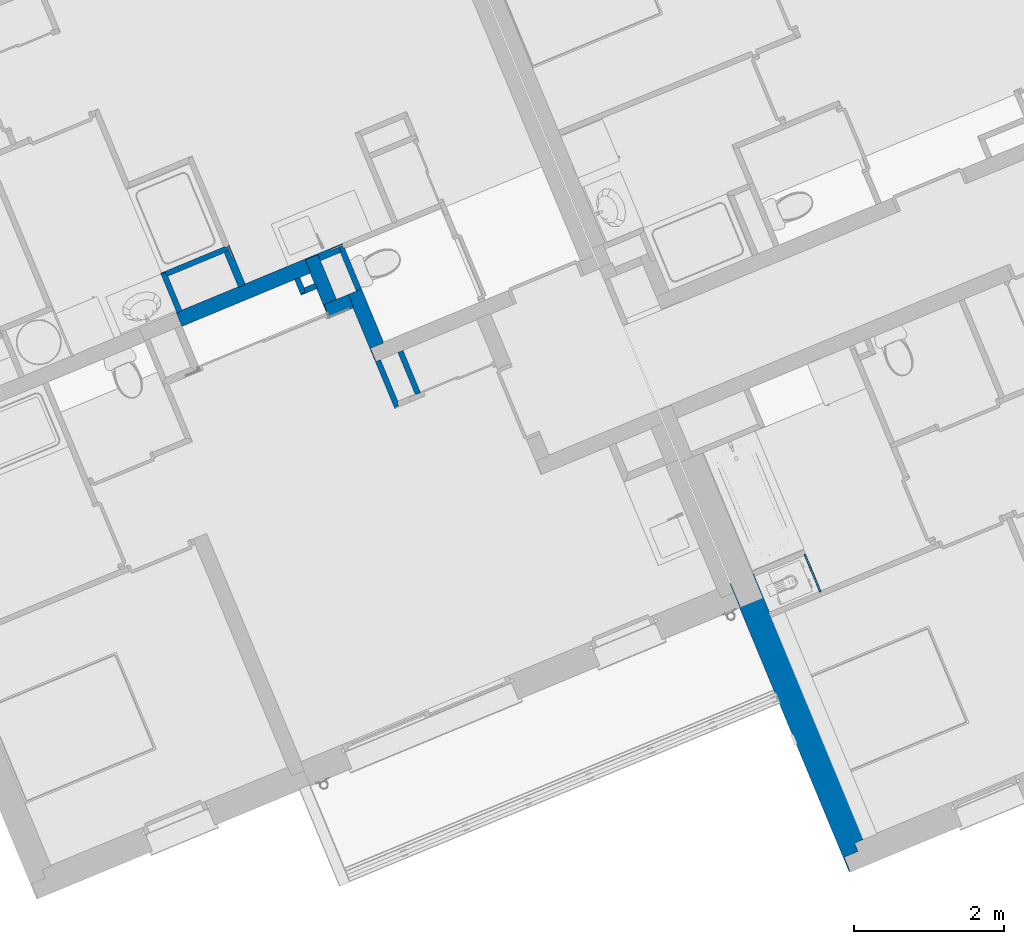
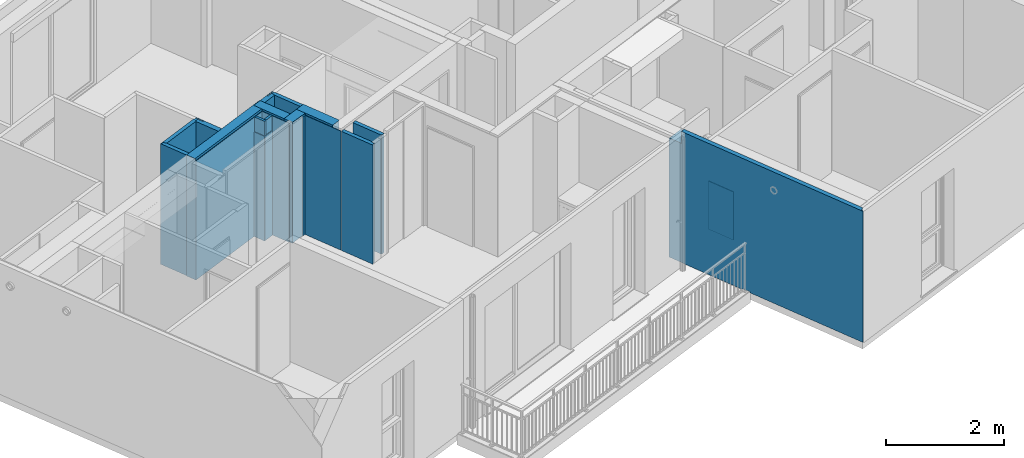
# One storey, part 40 of 90: 15 walls.
"""IFC2X3 building model written with IfcOpenShell, lengths in metres."""

from ifc_helpers import new_model, entity, si_unit, converted_unit, derived_unit, money_unit, direction, frame, origin_with_axes, place, context, subcontext, project, spatial, faceted_brep, material, material_list, type_object, element, save


model = new_model("IFC2X3")

# Units and contexts
model_context = context("Model", 3, precision=1e-05, world=origin_with_axes(), true_north=direction((0.0, 1.0)))
body_context = subcontext(model_context, "Body", "Model", "MODEL_VIEW")
ifc_project = project(units=[si_unit("LENGTHUNIT", "METRE"), si_unit("AREAUNIT", "SQUARE_METRE"), si_unit("VOLUMEUNIT", "CUBIC_METRE"), converted_unit("PLANEANGLEUNIT", "DEGREE", entity("IfcPlaneAngleMeasure", 0.0174532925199), si_unit("PLANEANGLEUNIT", "RADIAN"), dimensions=[0, 0, 0, 0, 0, 0, 0]), si_unit("SOLIDANGLEUNIT", "STERADIAN"), money_unit("EUR"), converted_unit("TIMEUNIT", "Year", entity("IfcTimeMeasure", 31556926.0), si_unit("TIMEUNIT", "SECOND"), dimensions=[0, 0, 1, 0, 0, 0, 0]), si_unit("MASSUNIT", "GRAM", prefix="KILO"), si_unit("THERMODYNAMICTEMPERATUREUNIT", "DEGREE_CELSIUS"), si_unit("LUMINOUSINTENSITYUNIT", "LUMEN"), si_unit("ENERGYUNIT", "JOULE", prefix="MEGA"), derived_unit("THERMALCONDUCTANCEUNIT", [(si_unit("POWERUNIT", "WATT"), 1), (si_unit("LENGTHUNIT", "METRE"), -1), (si_unit("THERMODYNAMICTEMPERATUREUNIT", "KELVIN"), -1)]), derived_unit("SPECIFICHEATCAPACITYUNIT", [(si_unit("ENERGYUNIT", "JOULE"), 1), (si_unit("MASSUNIT", "GRAM", prefix="KILO"), -1), (si_unit("THERMODYNAMICTEMPERATUREUNIT", "KELVIN"), -1)]), derived_unit("MASSDENSITYUNIT", [(si_unit("MASSUNIT", "GRAM", prefix="KILO"), 1), (si_unit("VOLUMEUNIT", "CUBIC_METRE"), -1)])], contexts=[model_context])

# Site, building, storey
site_placement = place(None, origin_with_axes())
site = spatial("IfcSite", under=ifc_project, at=site_placement, Name="Site", CompositionType="ELEMENT")
building_placement = place(site_placement, origin_with_axes())
building = spatial("IfcBuilding", under=site, at=building_placement, Name="Bâtiment", CompositionType="ELEMENT")
storey_placement = place(building_placement, frame((0.0, 0.0, 2.72), z_axis=(0.0, 0.0, 1.0), x_axis=(1.0, 0.0, 0.0)))
storey = spatial("IfcBuildingStorey", under=building, at=storey_placement, Name="R+1", CompositionType="ELEMENT", Elevation=2.72)

# Walls
ifc_material_1 = material(Name="Finition int - Plaque de plâtre")
ifc_material_2 = material(Name="Isolation - Laine de roche")
ifc_material_list_1 = material_list([ifc_material_1, ifc_material_2, ifc_material_1])
wall_type_1 = type_object("IfcWallType", Name="3 - Cloison 72mm Placostil 74", PredefinedType="USERDEFINED")
wall_1_placement = place(storey_placement, frame((-26.1715406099, -21.3055376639, 0.0), z_axis=(0.0, 0.0, 1.0), x_axis=(0.383112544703, -0.923701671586, 0.0)))
element("IfcWall", 1, at=wall_1_placement, inside=storey, type_object=wall_type_1, material=ifc_material_list_1, Name="Cloison Placostil 72/48", ObjectType="PARTITIONING", context=body_context, shape_type="Brep", body=[
    faceted_brep([(0.0, 0.074, 2.47), (0.612999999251, 0.074, 2.47), (0.612999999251, 0.074, 0.0), (0.0, 0.074, 0.0), (0.612999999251, 0.061, 2.47), (0.0, 0.061, 2.47), (0.612999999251, 0.061, 0.0), (0.0, 0.061, 0.0)], [[[0, 1, 2, 3]], [[4, 1, 0, 5]], [[1, 4, 6, 2]], [[3, 2, 6, 7]], [[5, 0, 3, 7]], [[4, 5, 7, 6]]]),
    faceted_brep([(0.0, 0.061, 2.47), (0.61299999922, 0.061, 2.47), (0.61299999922, 0.061, 0.0), (0.0, 0.061, 0.0), (0.612999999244, 0.013, 2.47), (0.0, 0.013, 2.47), (0.612999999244, 0.013, 0.0), (0.0, 0.013, 0.0)], [[[0, 1, 2, 3]], [[4, 1, 0, 5]], [[1, 4, 6, 2]], [[3, 2, 6, 7]], [[5, 0, 3, 7]], [[4, 5, 7, 6]]]),
    faceted_brep([(0.0, 0.013, 2.47), (0.599999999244, 0.013, 2.47), (0.599999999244, 0.013, 0.0), (0.0, 0.013, 0.0), (0.59999999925, 0.0, 2.47), (0.0, 0.0, 2.47), (0.59999999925, 0.0, 0.0), (0.0, 0.0, 0.0)], [[[0, 1, 2, 3]], [[4, 1, 0, 5]], [[1, 4, 6, 2]], [[3, 2, 6, 7]], [[5, 0, 3, 7]], [[4, 5, 7, 6]]]),
])
wall_2_placement = place(storey_placement, frame((-26.4708199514, -21.429666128, 0.0), z_axis=(0.0, 0.0, 1.0), x_axis=(0.383112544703, -0.923701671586, 0.0)))
element("IfcWall", 2, at=wall_2_placement, inside=storey, type_object=wall_type_1, material=ifc_material_list_1, Name="Cloison Placostil 72/48", ObjectType="PARTITIONING", context=body_context, shape_type="Brep", body=[
    faceted_brep([(0.0, 0.074, 2.47), (0.612999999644, 0.074, 2.47), (0.612999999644, 0.074, 0.0), (0.0, 0.074, 0.0), (0.61299999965, 0.061, 2.47), (0.0, 0.061, 2.47), (0.61299999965, 0.061, 0.0), (0.0, 0.061, 0.0)], [[[0, 1, 2, 3]], [[4, 1, 0, 5]], [[1, 4, 6, 2]], [[2, 6, 7, 3]], [[5, 0, 3, 7]], [[4, 5, 7, 6]]]),
    faceted_brep([(0.0, 0.061, 2.47), (0.66099999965, 0.061, 2.47), (0.66099999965, 0.061, 0.0), (0.0, 0.061, 0.0), (0.660999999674, 0.013, 2.47), (0.0, 0.013, 2.47), (0.660999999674, 0.013, 0.0), (0.0, 0.013, 0.0)], [[[0, 1, 2, 3]], [[4, 1, 0, 5]], [[1, 4, 6, 2]], [[2, 6, 7, 3]], [[5, 0, 3, 7]], [[4, 5, 7, 6]]]),
    faceted_brep([(0.0, 0.013, 2.47), (0.673999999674, 0.013, 2.47), (0.673999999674, 0.013, 0.0), (0.0, 0.013, 0.0), (0.67399999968, 0.0, 2.47), (0.0, 0.0, 2.47), (0.67399999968, 0.0, 0.0), (0.0, 0.0, 0.0)], [[[0, 1, 2, 3]], [[4, 1, 0, 5]], [[1, 4, 6, 2]], [[2, 6, 7, 3]], [[5, 0, 3, 7]], [[4, 5, 7, 6]]]),
])
ifc_material_3 = material(Name="Finition int - Enduit plâtre")
ifc_material_4 = material(Name="Béton")
ifc_material_list_2 = material_list([ifc_material_3, ifc_material_4, ifc_material_3])
wall_type_2 = type_object("IfcWallType", Name="2 - Murs Béton 18 + Enduit 2 Faces 200", PredefinedType="USERDEFINED")
wall_3_placement = place(storey_placement, frame((-29.1251537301, -20.7724285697, 0.0), z_axis=(0.0, 0.0, 1.0), x_axis=(0.92370167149, 0.383112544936, 0.0)))
element("IfcWall", 3, at=wall_3_placement, inside=storey, type_object=wall_type_2, material=ifc_material_list_2, Name="M_Ext-008", ObjectType="SOLIDWALL", context=body_context, shape_type="Brep", body=[
    faceted_brep([(1.85001659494, 0.0, 2.51), (1.85001659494, -0.01, 2.51), (2.04001659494, -0.01, 2.51), (2.04001659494, 0.0, 2.51), (0.0, -0.01, 2.51), (0.0, 0.0, 2.51), (0.0, -0.01, 0.0), (0.00800000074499, -0.01, 0.0), (0.00800000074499, -0.01, 2.5), (0.082000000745, -0.01, 2.5), (0.082000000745, -0.01, 0.0), (0.895000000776, -0.01, 0.0), (0.895000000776, -0.01, 2.5), (0.995000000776, -0.01, 2.5), (0.995000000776, -0.01, 0.0), (2.04001659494, -0.01, 0.0), (2.04001659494, 0.0, 0.0), (0.99500000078, 0.0, 0.0), (0.99500000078, 0.0, 2.5), (0.89500000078, 0.0, 2.5), (0.89500000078, 0.0, 0.0), (0.0820000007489, 0.0, 0.0), (0.0820000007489, 0.0, 2.5), (0.00800000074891, 0.0, 2.5), (0.00800000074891, 0.0, 0.0), (0.0, 0.0, 0.0)], [[[0, 1, 2, 3]], [[4, 1, 0, 5]], [[1, 4, 6, 7, 8, 9, 10, 11, 12, 13, 14, 15, 2]], [[15, 16, 3, 2]], [[5, 0, 3, 16, 17, 18, 19, 20, 21, 22, 23, 24, 25]], [[4, 5, 25, 6]], [[25, 24, 7, 6]], [[23, 8, 7, 24]], [[9, 8, 23, 22]], [[21, 10, 9, 22]], [[21, 20, 11, 10]], [[19, 12, 11, 20]], [[18, 13, 12, 19]], [[17, 14, 13, 18]], [[15, 14, 17, 16]]]),
    faceted_brep([(1.85001659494, -0.189996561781, 2.51), (1.86001658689, -0.189999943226, 2.50999999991), (1.86001659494, -0.01, 2.50999999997), (1.85001659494, -0.01, 2.51), (1.85001659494, -0.189918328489, 2.51), (1.85001659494, -0.189996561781, 2.52), (0.0, -0.18937098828, 2.52), (0.0, -0.18937098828, 2.47), (1.86001658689, -0.189999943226, 2.47), (1.86001659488, -0.19, 0.0), (1.86001659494, -0.01, 0.0), (0.0, -0.01, 0.0), (0.0, -0.01, 2.51), (0.0, -0.174814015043, 2.51), (1.85001659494, -0.189918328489, 2.52), (0.0, -0.174814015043, 2.52), (0.0, -0.19, 0.0), (0.0, -0.19, 2.47)], [[[0, 1, 2, 3, 4]], [[1, 0, 5, 6, 7, 8]], [[1, 8, 9, 10, 2]], [[11, 12, 3, 2, 10]], [[13, 4, 3, 12]], [[5, 0, 4, 14]], [[6, 5, 14, 15]], [[7, 6, 15, 13, 12, 11, 16, 17]], [[17, 8, 7]], [[8, 17, 16, 9]], [[10, 9, 16, 11]], [[13, 15, 14, 4]]]),
    faceted_brep([(1.85001659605, -0.189996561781, 2.47), (1.85001659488, -0.2, 2.47), (1.85001659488, -0.2, 0.0), (1.85001659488, -0.19, 0.0), (0.0, -0.2, 2.47), (0.0, -0.19, 2.47), (0.0, -0.2, 0.0), (0.0, -0.19, 0.0)], [[[0, 1, 2, 3]], [[4, 1, 0, 5]], [[1, 4, 6, 2]], [[7, 3, 2, 6]], [[5, 0, 3, 7]], [[4, 5, 7, 6]]]),
])
wall_4_placement = place(storey_placement, frame((-26.46541406, -21.4165979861, 0.0), z_axis=(0.0, 0.0, 1.0), x_axis=(-0.383112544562, 0.923701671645, 0.0)))
element("IfcWall", 4, at=wall_4_placement, inside=storey, type_object=wall_type_2, material=ifc_material_list_2, Name="M_Ext-008", ObjectType="SOLIDWALL", context=body_context, shape_type="Brep", body=[
    faceted_brep([(0.766636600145, 2.84764283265e-08, 2.51), (0.766636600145, 2.84764283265e-08, 2.47), (8.86723423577e-08, -1.06286606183e-08, 2.47), (0.0, 0.0, 0.0), (0.776636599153, 0.0, 0.0), (0.776636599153, 0.0, 2.51), (0.76692231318, 0.00999999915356, 2.51), (0.766922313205, 0.01, 2.47), (0.0, 0.01, 2.47), (0.0, 0.01, 0.0), (0.77663659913, 0.01, 0.0), (0.77663659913, 0.01, 2.51)], [[[0, 1, 2, 3, 4, 5]], [[1, 0, 6, 7]], [[8, 2, 1, 7]], [[2, 8, 9, 3]], [[10, 4, 3, 9]], [[11, 5, 4, 10]], [[6, 0, 5, 11]], [[7, 6, 11, 10, 9, 8]]]),
    faceted_brep([(0.956636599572, -0.18, 2.51), (0.761493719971, -0.18, 2.51), (0.180000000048, -0.18, 2.51), (0.180000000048, -0.18, 0.0), (0.956636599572, -0.18, 0.0), (0.766636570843, 4.06298710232e-08, 2.51), (0.956636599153, 0.0, 2.51), (0.18, 1.07063300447e-08, 2.51), (0.18, 0.0, 0.0), (0.956636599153, 0.0, 0.0)], [[[0, 1, 2, 3, 4]], [[5, 1, 0, 6]], [[1, 5, 7, 2]], [[2, 7, 8, 3]], [[9, 4, 3, 8]], [[6, 0, 4, 9]], [[5, 6, 9, 8, 7]]]),
    faceted_brep([(0.956636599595, -0.19, 2.51), (0.761208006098, -0.19, 2.51), (0.190000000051, -0.19, 2.51), (0.190000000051, -0.19, 0.0), (0.956636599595, -0.19, 0.0), (0.761493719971, -0.18, 2.51), (0.956636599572, -0.18, 2.51), (0.190000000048, -0.18, 2.51), (0.190000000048, -0.18, 0.0), (0.956636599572, -0.18, 0.0)], [[[0, 1, 2, 3, 4]], [[5, 1, 0, 6]], [[1, 5, 7, 2]], [[2, 7, 8, 3]], [[9, 4, 3, 8]], [[6, 0, 4, 9]], [[5, 6, 9, 8, 7]]]),
])
wall_type_3 = type_object("IfcWallType", Name="3 - Cloison Gaine Technique 72mm 74", PredefinedType="USERDEFINED")
wall_5_placement = place(storey_placement, frame((-29.3334564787, -20.2493196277, 0.0), z_axis=(0.0, 0.0, 1.0), x_axis=(0.923701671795, 0.383112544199, 0.0)))
element("IfcWall", 5, at=wall_5_placement, inside=storey, type_object=wall_type_3, material=ifc_material_list_1, Name="Cloison Placostil 72/48", ObjectType="PARTITIONING", context=body_context, shape_type="Brep", body=[
    faceted_brep([(0.0130000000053, -0.013, 0.0), (0.926000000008, -0.013, 0.0), (0.926000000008, -0.013, 2.5), (0.0130000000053, -0.013, 2.5), (0.013, 0.0, 0.0), (0.926000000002, 0.0, 0.0), (0.926000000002, 0.0, 2.5), (0.013, 0.0, 2.5)], [[[0, 1, 2, 3]], [[4, 5, 1, 0]], [[5, 6, 2, 1]], [[3, 2, 6, 7]], [[4, 0, 3, 7]], [[7, 6, 5, 4]]]),
    faceted_brep([(0.0610000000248, -0.061, 2.5), (0.96100000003, -0.061, 2.5), (0.961000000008, -0.013, 2.5), (0.0610000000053, -0.013, 2.5), (0.0610000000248, -0.061, 0.0), (0.96100000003, -0.061, 0.0), (0.961000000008, -0.013, 0.0), (0.0610000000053, -0.013, 0.0)], [[[0, 1, 2, 3]], [[4, 5, 1, 0]], [[6, 2, 1, 5]], [[3, 2, 6, 7]], [[7, 4, 0, 3]], [[7, 6, 5, 4]]]),
    faceted_brep([(0.0740000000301, -0.074, 2.5), (0.900000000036, -0.074, 2.5), (0.90000000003, -0.061, 2.5), (0.0740000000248, -0.061, 2.5), (0.0740000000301, -0.074, 0.0), (0.900000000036, -0.074, 0.0), (0.90000000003, -0.061, 0.0), (0.0740000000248, -0.061, 0.0)], [[[0, 1, 2, 3]], [[4, 5, 1, 0]], [[6, 2, 1, 5]], [[3, 2, 6, 7]], [[7, 4, 0, 3]], [[7, 6, 5, 4]]]),
])
wall_6_placement = place(storey_placement, frame((-26.6564102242, -20.4601597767, 0.0), z_axis=(0.0, 0.0, 1.0), x_axis=(-0.383112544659, 0.923701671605, 0.0)))
element("IfcWall", 6, at=wall_6_placement, inside=storey, type_object=wall_type_3, material=ifc_material_list_1, Name="Cloison Placostil 72/48", ObjectType="PARTITIONING", context=body_context, shape_type="Brep", body=[
    faceted_brep([(0.570363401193, 0.074, 0.0), (0.570363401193, 0.061, 0.0), (0.0, 0.061, 0.0), (0.0, 0.074, 0.0), (0.570363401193, 0.074, 2.5), (0.570363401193, 0.061, 2.5), (0.0, 0.061, 2.5), (0.0, 0.074, 2.5)], [[[0, 1, 2, 3]], [[1, 0, 4, 5]], [[1, 5, 6, 2]], [[7, 3, 2, 6]], [[4, 0, 3, 7]], [[5, 4, 7, 6]]]),
    faceted_brep([(0.0, 0.061, 0.0), (0.631363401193, 0.061, 0.0), (0.631363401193, 0.013, 0.0), (0.0, 0.013, 0.0), (0.0, 0.061, 2.5), (0.631363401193, 0.061, 2.5), (0.631363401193, 0.013, 2.5), (0.0, 0.013, 2.5)], [[[0, 1, 2, 3]], [[4, 5, 1, 0]], [[6, 2, 1, 5]], [[3, 2, 6, 7]], [[7, 4, 0, 3]], [[7, 6, 5, 4]]]),
    faceted_brep([(0.0, 0.0, 0.0), (0.596363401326, 0.0, 0.0), (0.596363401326, 0.0, 2.5), (0.0, 0.0, 2.5), (0.0, 0.013, 0.0), (0.596363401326, 0.013, 0.0), (0.596363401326, 0.013, 2.5), (0.0, 0.013, 2.5)], [[[0, 1, 2, 3]], [[4, 5, 1, 0]], [[5, 6, 2, 1]], [[3, 2, 6, 7]], [[3, 7, 4, 0]], [[7, 6, 5, 4]]]),
])
wall_7_placement = place(storey_placement, frame((-29.117764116, -20.769363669, 0.0), z_axis=(0.0, 0.0, 1.0), x_axis=(-0.383112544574, 0.92370167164, 0.0)))
element("IfcWall", 7, at=wall_7_placement, inside=storey, type_object=wall_type_3, material=ifc_material_list_1, Name="Cloison Placostil 72/48", ObjectType="PARTITIONING", context=body_context, shape_type="Brep", body=[
    faceted_brep([(0.563000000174, -0.013, 2.5), (0.563000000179, 0.0, 2.5), (-0.01, 0.0, 2.5), (-0.00999999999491, -0.013, 2.5), (0.563000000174, -0.013, 0.0), (0.563000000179, 0.0, 0.0), (-0.01, 0.0, 0.0), (-0.00999999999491, -0.013, 0.0)], [[[0, 1, 2, 3]], [[1, 0, 4, 5]], [[1, 5, 6, 2]], [[7, 3, 2, 6]], [[4, 0, 3, 7]], [[5, 4, 7, 6]]]),
    faceted_brep([(0.550000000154, -0.061, 2.5), (0.550000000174, -0.013, 2.5), (-0.00999999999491, -0.013, 2.5), (-0.0099999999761, -0.061, 2.5), (0.550000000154, -0.061, 0.0), (0.550000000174, -0.013, 0.0), (-0.00999999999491, -0.013, 0.0), (-0.0099999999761, -0.061, 0.0)], [[[0, 1, 2, 3]], [[1, 0, 4, 5]], [[1, 5, 6, 2]], [[7, 3, 2, 6]], [[4, 0, 3, 7]], [[5, 4, 7, 6]]]),
    faceted_brep([(0.502000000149, -0.074, 2.5), (0.502000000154, -0.061, 2.5), (-0.0099999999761, -0.061, 2.5), (-0.009999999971, -0.074, 2.5), (0.502000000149, -0.074, 0.0), (0.502000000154, -0.061, 0.0), (-0.0099999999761, -0.061, 0.0), (-0.009999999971, -0.074, 0.0)], [[[0, 1, 2, 3]], [[1, 0, 4, 5]], [[1, 5, 6, 2]], [[7, 3, 2, 6]], [[4, 0, 3, 7]], [[5, 4, 7, 6]]]),
])
wall_8_placement = place(storey_placement, frame((-27.4607597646, -20.5411307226, 0.0), z_axis=(0.0, 0.0, 1.0), x_axis=(0.923701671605, 0.383112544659, 0.0)))
element("IfcWall", 8, at=wall_8_placement, inside=storey, type_object=wall_type_3, material=ifc_material_list_1, Name="Cloison Placostil 72/48", ObjectType="PARTITIONING", context=body_context, shape_type="Brep", body=[
    faceted_brep([(0.233999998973, 0.074, 2.47), (0.233999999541, 0.061, 2.47), (0.233999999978, 0.061, 0.0), (0.233999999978, 0.074, 0.0), (0.223999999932, 0.061, 2.47), (0.223999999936, 0.074, 2.47), (0.223999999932, 0.061, 2.17000000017), (0.0739999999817, 0.061, 2.17000000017), (0.0739999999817, 0.061, 0.0), (0.0739999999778, 0.074, 0.0), (0.0739999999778, 0.074, 2.17000000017), (0.223999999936, 0.074, 2.17000000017)], [[[0, 1, 2, 3]], [[4, 1, 0, 5]], [[1, 4, 6, 7, 8, 2]], [[3, 2, 8, 9]], [[5, 0, 3, 9, 10, 11]], [[4, 5, 11, 6]], [[7, 6, 11, 10]], [[7, 10, 9, 8]]]),
    faceted_brep([(0.233999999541, 0.061, 2.47), (0.234000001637, 0.013, 2.47), (0.233999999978, 0.013, 0.0), (0.233999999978, 0.061, 0.0), (0.0609999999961, 0.013, 2.47), (0.0609999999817, 0.061, 2.47), (0.0609999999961, 0.013, 0.0), (0.0609999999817, 0.061, 0.0)], [[[0, 1, 2, 3]], [[4, 1, 0, 5]], [[1, 4, 6, 2]], [[3, 2, 6, 7]], [[5, 0, 3, 7]], [[4, 5, 7, 6]]]),
    faceted_brep([(0.234000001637, 0.013, 2.47), (0.234000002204, 0.0, 2.47), (0.233999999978, 0.0, 0.0), (0.233999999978, 0.013, 0.0), (0.223999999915, 0.0, 2.47), (0.223999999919, 0.013, 2.47), (0.223999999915, 0.0, 2.17000000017), (0.013, 0.0, 2.17000000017), (0.013, 0.0, 0.0), (0.0129999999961, 0.013, 0.0), (0.0129999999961, 0.013, 2.17000000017), (0.223999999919, 0.013, 2.17000000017)], [[[0, 1, 2, 3]], [[4, 1, 0, 5]], [[1, 4, 6, 7, 8, 2]], [[3, 2, 8, 9]], [[5, 0, 3, 9, 10, 11]], [[4, 5, 11, 6]], [[7, 6, 11, 10]], [[7, 10, 9, 8]]]),
])
wall_9_placement = place(storey_placement, frame((-27.5465769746, -20.3342215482, 0.0), z_axis=(0.0, 0.0, 1.0), x_axis=(0.383112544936, -0.92370167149, 0.0)))
element("IfcWall", 9, at=wall_9_placement, inside=storey, type_object=wall_type_3, material=ifc_material_list_1, Name="Cloison Placostil 72/48", ObjectType="PARTITIONING", context=body_context, shape_type="Brep", body=[
    faceted_brep([(0.0, 0.074, 2.17000000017), (0.162999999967, 0.074, 2.17000000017), (0.162999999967, 0.074, 0.0), (0.0, 0.074, 0.0), (0.162999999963, 0.061, 2.17000000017), (0.0, 0.061, 2.17000000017), (0.162999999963, 0.061, 0.0), (0.0, 0.061, 0.0)], [[[0, 1, 2, 3]], [[4, 1, 0, 5]], [[1, 4, 6, 2]], [[2, 6, 7, 3]], [[5, 0, 3, 7]], [[4, 5, 7, 6]]]),
    faceted_brep([(0.0, 0.061, 2.47), (0.210999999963, 0.061, 2.47), (0.210999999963, 0.061, 0.0), (0.0, 0.061, 0.0), (0.210999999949, 0.013, 2.47), (0.0, 0.013, 2.47), (0.210999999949, 0.013, 0.0), (0.0, 0.013, 0.0)], [[[0, 1, 2, 3]], [[4, 1, 0, 5]], [[1, 4, 6, 2]], [[2, 6, 7, 3]], [[5, 0, 3, 7]], [[4, 5, 7, 6]]]),
    faceted_brep([(0.0, 0.013, 2.17000000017), (0.223999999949, 0.013, 2.17000000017), (0.223999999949, 0.013, 0.0), (0.0, 0.013, 0.0), (0.223999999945, 0.0, 2.17000000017), (0.0, 0.0, 2.17000000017), (0.223999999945, 0.0, 0.0), (0.0, 0.0, 0.0)], [[[0, 1, 2, 3]], [[4, 1, 0, 5]], [[1, 4, 6, 2]], [[2, 6, 7, 3]], [[5, 0, 3, 7]], [[4, 5, 7, 6]]]),
])
ifc_material_list_3 = material_list([ifc_material_3, ifc_material_4])
wall_type_4 = type_object("IfcWallType", Name="2 - Murs Béton 18 + Enduit 1 Face 190", PredefinedType="USERDEFINED")
wall_10_placement = place(storey_placement, frame((-27.0916547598, -20.8463749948, 0.0), z_axis=(0.0, 0.0, 1.0), x_axis=(-0.383112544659, 0.923701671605, 0.0)))
element("IfcWall", 10, at=wall_10_placement, inside=storey, type_object=wall_type_4, material=ifc_material_list_3, Name="M_Ext-008", ObjectType="SOLIDWALL", context=body_context, shape_type="Brep", body=[
    faceted_brep([(0.657363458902, -0.00999999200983, 2.47), (0.497363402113, -0.00999999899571, 2.47), (0.497363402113, -0.01, 0.0), (0.657363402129, -0.01, 0.0), (0.497363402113, 0.0, 2.47), (0.657363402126, 0.0, 2.47), (0.497363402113, 1.84146387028e-09, 0.0), (0.657363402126, 0.0, 0.0)], [[[0, 1, 2, 3]], [[4, 1, 0, 5]], [[1, 4, 6, 2]], [[6, 7, 3, 2]], [[5, 0, 3, 7]], [[4, 5, 7, 6]]]),
    faceted_brep([(0.423363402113, -0.0100000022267, 2.47), (0.0740000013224, -0.0100000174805, 2.47), (0.0740000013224, -0.01, 0.0), (0.423363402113, -0.01, 0.0), (0.0740000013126, 0.0, 2.47), (0.423363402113, 0.0, 2.47), (0.0740000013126, 6.71401068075e-09, 0.0), (0.423363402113, 2.69314170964e-09, 0.0)], [[[0, 1, 2, 3]], [[4, 1, 0, 5]], [[1, 4, 6, 2]], [[3, 2, 6, 7]], [[5, 0, 3, 7]], [[4, 5, 7, 6]]]),
    faceted_brep([(0.190000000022, -0.01, 2.50999999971), (0.190000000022, -0.01, 0.0), (0.190000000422, -0.19, 0.0), (0.190000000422, -0.19, 2.5099999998), (0.837363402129, -0.01, 0.0), (0.837363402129, -0.01, 2.50999999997), (0.837363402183, -0.19, 0.0), (0.837363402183, -0.19, 2.50999999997)], [[[0, 1, 2, 3]], [[4, 1, 0, 5]], [[6, 2, 1, 4]], [[3, 2, 6, 7]], [[5, 0, 3, 7]], [[5, 7, 6, 4]]]),
])
wall_11_placement = place(storey_placement, frame((-26.7591221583, -20.7084544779, 0.0), z_axis=(0.0, 0.0, 1.0), x_axis=(-0.923701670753, -0.383112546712, 0.0)))
element("IfcWall", 11, at=wall_11_placement, inside=storey, type_object=wall_type_4, material=ifc_material_list_3, Name="M_Ext-008", ObjectType="SOLIDWALL", context=body_context, shape_type="Brep", body=[
    faceted_brep([(0.0099999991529, -0.000285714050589, 2.51), (0.00999999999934, -0.000285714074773, 2.47), (0.01, 0.0, 2.47), (0.01, 0.0, 0.0), (0.00999999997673, -0.01, 0.0), (0.00999999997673, -0.01, 2.51), (0.349999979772, -0.00999998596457, 2.51), (0.349999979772, -0.00999998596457, 2.5), (0.0699999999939, -0.00199999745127, 2.5), (0.0699999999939, -0.00199999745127, 2.47), (0.0699999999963, -9.5200292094e-10, 2.47), (0.0699999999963, -9.5200292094e-10, 0.0), (0.0699999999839, -0.01, 0.0), (0.0699999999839, -0.01, 2.5)], [[[0, 1, 2, 3, 4, 5]], [[1, 0, 6, 7, 8, 9]], [[10, 2, 1, 9]], [[2, 10, 11, 3]], [[3, 11, 12, 4]], [[7, 6, 5, 4, 12, 13]], [[6, 0, 5]], [[8, 7, 13]], [[9, 8, 13, 12, 11, 10]]]),
    faceted_brep([(-4.42241798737e-10, -0.19, 2.51), (0.0, -0.01, 2.51), (0.0, -0.01, 0.0), (-4.4223469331e-10, -0.19, 0.0), (0.349999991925, -0.00999995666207, 2.51), (0.349999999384, -0.19, 2.51), (0.350000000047, -0.01, 0.0), (0.349999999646, -0.19, 0.0)], [[[0, 1, 2, 3]], [[4, 1, 0, 5]], [[1, 4, 6, 2]], [[2, 6, 7, 3]], [[5, 0, 3, 7]], [[5, 7, 6, 4]]]),
])
ifc_material_list_4 = material_list([ifc_material_1, ifc_material_1, ifc_material_2, ifc_material_1, ifc_material_1])
wall_type_5 = type_object("IfcWallType", Name="3 - Cloison Gaine Technique 98mm 100", PredefinedType="USERDEFINED")
wall_12_placement = place(storey_placement, frame((-28.4217629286, -19.8711875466, 0.0), z_axis=(0.0, 0.0, 1.0), x_axis=(0.383112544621, -0.92370167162, 0.0)))
element("IfcWall", 12, at=wall_12_placement, inside=storey, type_object=wall_type_5, material=ifc_material_list_4, Name="Cloison 98 isolée", ObjectType="PARTITIONING", context=body_context, shape_type="Brep", body=[
    faceted_brep([(0.0, -0.013, 2.5), (0.572999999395, -0.013, 2.5), (0.572999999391, 0.0, 2.5), (0.0, 0.0, 2.5), (0.0, -0.013, 0.0), (0.572999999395, -0.013, 0.0), (0.572999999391, 0.0, 0.0), (0.0, 0.0, 0.0)], [[[0, 1, 2, 3]], [[4, 5, 1, 0]], [[6, 2, 1, 5]], [[3, 2, 6, 7]], [[7, 4, 0, 3]], [[7, 6, 5, 4]]]),
    faceted_brep([(0.572999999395, -0.013, 0.0), (0.174, -0.0129999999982, 0.0), (0.174, -0.0129999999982, 2.5), (0.572999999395, -0.013, 2.5), (0.5729999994, -0.026, 0.0), (0.174, -0.026, 0.0), (0.174, -0.026, 2.5), (0.5729999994, -0.026, 2.5)], [[[0, 1, 2, 3]], [[4, 5, 1, 0]], [[5, 6, 2, 1]], [[3, 2, 6, 7]], [[0, 3, 7, 4]], [[7, 6, 5, 4]]]),
    faceted_brep([(0.0609999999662, -0.074, 2.5), (0.572999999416, -0.074, 2.5), (0.5729999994, -0.026, 2.5), (0.0609999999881, -0.026, 2.5), (0.0609999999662, -0.074, 0.0), (0.572999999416, -0.074, 0.0), (0.5729999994, -0.026, 0.0), (0.0609999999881, -0.026, 0.0)], [[[0, 1, 2, 3]], [[4, 5, 1, 0]], [[6, 2, 1, 5]], [[3, 2, 6, 7]], [[7, 4, 0, 3]], [[7, 6, 5, 4]]]),
    faceted_brep([(0.0609999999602, -0.087, 2.5), (0.572999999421, -0.087, 2.5), (0.572999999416, -0.074, 2.5), (0.0609999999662, -0.074, 2.5), (0.0609999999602, -0.087, 0.0), (0.572999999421, -0.087, 0.0), (0.572999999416, -0.074, 0.0), (0.0609999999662, -0.074, 0.0)], [[[0, 1, 2, 3]], [[4, 5, 1, 0]], [[6, 2, 1, 5]], [[3, 2, 6, 7]], [[7, 4, 0, 3]], [[7, 6, 5, 4]]]),
    faceted_brep([(0.0739999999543, -0.1, 2.5), (0.572999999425, -0.1, 2.5), (0.572999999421, -0.087, 2.5), (0.0739999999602, -0.087, 2.5), (0.0739999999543, -0.1, 0.0), (0.572999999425, -0.1, 0.0), (0.572999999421, -0.087, 0.0), (0.0739999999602, -0.087, 0.0)], [[[0, 1, 2, 3]], [[4, 5, 1, 0]], [[6, 2, 1, 5]], [[3, 2, 6, 7]], [[7, 4, 0, 3]], [[7, 6, 5, 4]]]),
])
wall_13_placement = place(storey_placement, frame((-26.9082543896, -19.8529521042, 0.0), z_axis=(0.0, 0.0, 1.0), x_axis=(-0.923701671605, -0.383112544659, 0.0)))
element("IfcWall", 13, at=wall_13_placement, inside=storey, type_object=wall_type_5, material=ifc_material_list_4, Name="Cloison 98 isolée", ObjectType="PARTITIONING", context=body_context, shape_type="Brep", body=[
    faceted_brep([(0.074, 0.1, 0.0), (0.360000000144, 0.1, 0.0), (0.360000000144, 0.087, 0.0), (0.074, 0.087, 0.0), (0.074, 0.1, 2.5), (0.360000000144, 0.1, 2.5), (0.360000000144, 0.087, 2.5), (0.074, 0.087, 2.5)], [[[0, 1, 2, 3]], [[4, 5, 1, 0]], [[2, 1, 5, 6]], [[3, 2, 6, 7]], [[4, 0, 3, 7]], [[7, 6, 5, 4]]]),
    faceted_brep([(0.061, 0.087, 0.0), (0.360000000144, 0.087, 0.0), (0.360000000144, 0.074, 0.0), (0.061, 0.074, 0.0), (0.061, 0.087, 2.5), (0.360000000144, 0.087, 2.5), (0.360000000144, 0.074, 2.5), (0.061, 0.074, 2.5)], [[[0, 1, 2, 3]], [[4, 5, 1, 0]], [[2, 1, 5, 6]], [[3, 2, 6, 7]], [[4, 0, 3, 7]], [[7, 6, 5, 4]]]),
    faceted_brep([(0.061, 0.026, 0.0), (0.061, 0.074, 0.0), (0.360000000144, 0.074, 0.0), (0.360000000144, 0.026, 0.0), (0.061, 0.026, 2.5), (0.061, 0.074, 2.5), (0.360000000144, 0.074, 2.5), (0.360000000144, 0.026, 2.5)], [[[0, 1, 2, 3]], [[4, 5, 1, 0]], [[1, 5, 6, 2]], [[7, 3, 2, 6]], [[4, 0, 3, 7]], [[5, 4, 7, 6]]]),
    faceted_brep([(0.360000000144, 0.026, 0.0), (0.174, 0.026, 0.0), (0.174, 0.026, 2.5), (0.360000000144, 0.026, 2.5), (0.360000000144, 0.013, 0.0), (0.174, 0.0129999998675, 0.0), (0.174, 0.0129999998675, 2.5), (0.360000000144, 0.013, 2.5)], [[[0, 1, 2, 3]], [[4, 5, 1, 0]], [[5, 6, 2, 1]], [[3, 2, 6, 7]], [[7, 4, 0, 3]], [[7, 6, 5, 4]]]),
    faceted_brep([(0.0, 0.0, 0.0), (0.0, 0.013, 0.0), (0.360000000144, 0.013, 0.0), (0.360000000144, 0.0, 0.0), (0.0, 0.0, 2.5), (0.0, 0.013, 2.5), (0.360000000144, 0.013, 2.5), (0.360000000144, 0.0, 2.5)], [[[0, 1, 2, 3]], [[4, 5, 1, 0]], [[1, 5, 6, 2]], [[7, 3, 2, 6]], [[4, 0, 3, 7]], [[5, 4, 7, 6]]]),
])
ifc_material_5 = material(Name="Bois - Mélaminé blanc")
wall_type_6 = type_object("IfcWallType", Name="Bois - Mélaminé blanc 20", PredefinedType="USERDEFINED")
wall_14_placement = place(storey_placement, frame((-20.7631172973, -23.9360170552, 0.0), z_axis=(0.0, 0.0, 1.0), x_axis=(0.383112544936, -0.92370167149, 0.0)))
element("IfcWall", 14, at=wall_14_placement, inside=storey, type_object=wall_type_6, material=ifc_material_5, Name="Panneaux 20mm mélaminé blanc", ObjectType="PARTITIONING", context=body_context, shape_type="Brep", body=[
    faceted_brep([(0.0609999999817, -0.02, 1.0), (0.602999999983, -0.02, 1.0), (0.603, 0.0, 1.0), (0.061, 0.0, 1.0), (0.0609999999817, -0.02, 0.0), (0.602999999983, -0.02, 0.0), (0.603, 0.0, 0.0), (0.061, 0.0, 0.0)], [[[0, 1, 2, 3]], [[4, 5, 1, 0]], [[6, 2, 1, 5]], [[3, 2, 6, 7]], [[7, 4, 0, 3]], [[7, 6, 5, 4]]]),
])
ifc_material_6 = material(Name="Isolation - Polystyrène extrudé")
ifc_material_7 = material(Name="Bloc ELITHERM")
ifc_material_8 = material(Name="Isolation - Polystyrène expansé")
ifc_material_9 = material(Name="Mortier")
ifc_material_10 = material(Name="Béton cellulaire")
ifc_material_11 = material(Name="Finition ext - Crépis")
ifc_material_list_5 = material_list([ifc_material_1, ifc_material_6, ifc_material_7, ifc_material_8, ifc_material_9, ifc_material_10, ifc_material_11])
wall_type_7 = type_object("IfcWallType", Name="Mur ALKERN + planelle 23 345 x 2720", PredefinedType="USERDEFINED")
wall_15_placement = place(storey_placement, frame((-21.6180083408, -24.7069020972, 0.0), z_axis=(0.0, 0.0, 1.0), x_axis=(0.383112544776, -0.923701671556, 0.0)))
element("IfcWall", 15, at=wall_15_placement, inside=storey, type_object=wall_type_7, material=ifc_material_list_5, Name="Mue bloc ALKERN isolé", ObjectType="SOLIDWALL", context=body_context, shape_type="Brep", body=[
    faceted_brep([(0.27945168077, 0.344999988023, 2.49000000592), (0.27945168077, 0.344999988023, 2.3), (3.47445171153, 0.344999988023, 2.3), (3.47445171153, 0.344999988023, 0.0), (-0.345000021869, 0.344999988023, 0.0), (-0.345000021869, 0.344999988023, 2.47000001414), (-0.082999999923, 0.344999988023, 2.47000001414), (-0.082999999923, 0.344999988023, 2.4799999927), (-0.082999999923, 0.344999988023, 2.49000000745), (0.279451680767, 0.33500001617, 2.49000000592), (0.279451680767, 0.33500001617, 2.3), (3.47445171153, 0.335000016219, 2.3), (3.47445171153, 0.334999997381, 0.0), (-0.34500002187, 0.334999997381, 0.0), (-0.34500002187, 0.334999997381, 2.47000001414), (-0.0829999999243, 0.334999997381, 2.47000001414), (-0.0829999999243, 0.334999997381, 2.4799999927), (-0.0829999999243, 0.334999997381, 2.49000000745)], [[[0, 1, 2, 3, 4, 5, 6, 7, 8]], [[1, 0, 9, 10]], [[11, 2, 1, 10]], [[2, 11, 12, 3]], [[4, 3, 12, 13]], [[13, 14, 5, 4]], [[14, 15, 6, 5]], [[15, 16, 7, 6]], [[7, 16, 17, 8]], [[9, 0, 8, 17]], [[10, 9, 17, 16, 15, 14, 13, 12, 11]]]),
    faceted_brep([(-0.0829999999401, 0.214999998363, 2.49000000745), (3.48445170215, 0.214999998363, 2.49000000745), (3.48445170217, 0.334999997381, 2.49000000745), (-0.0829999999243, 0.334999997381, 2.49000000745), (-0.345000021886, 0.214999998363, 0.0), (3.48445170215, 0.214999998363, 0.0), (-0.0829999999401, 0.214999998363, 2.4799999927), (-0.0829999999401, 0.214999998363, 2.47000001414), (-0.345000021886, 0.214999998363, 2.47000001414), (3.48445170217, 0.334999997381, 0.0), (-0.34500002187, 0.334999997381, 0.0), (-0.34500002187, 0.334999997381, 2.47000001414), (-0.0829999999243, 0.334999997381, 2.47000001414), (-0.0829999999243, 0.334999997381, 2.4799999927)], [[[0, 1, 2, 3]], [[4, 5, 1, 0, 6, 7, 8]], [[5, 9, 2, 1]], [[3, 2, 9, 10, 11, 12, 13]], [[13, 6, 0, 3]], [[10, 9, 5, 4]], [[7, 6, 13, 12]], [[8, 7, 12, 11]], [[4, 8, 11, 10]]]),
    faceted_brep([(3.6044516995, 0.0829999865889, 2.49000000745), (3.60445169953, 0.215, 2.49000000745), (-0.0829999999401, 0.215, 2.49000000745), (-0.0829999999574, 0.0829999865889, 2.49000000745), (3.60445169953, 0.215, 0.0), (3.60445169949, 0.015, 2.49000000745), (3.60445169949, 0.015, 0.0), (-0.345000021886, 0.215, 0.0), (-0.345000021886, 0.215, 2.47000001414), (-0.0829999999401, 0.215, 2.47000001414), (-0.0829999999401, 0.215, 2.4799999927), (-0.0829999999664, 0.015, 2.49000000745), (-0.0829999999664, 0.015, 2.4799999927), (-0.0829999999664, 0.015, 2.47000001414), (-0.345000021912, 0.015, 2.47000001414), (-0.345000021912, 0.015, 0.0)], [[[0, 1, 2, 3]], [[4, 1, 0, 5, 6]], [[1, 4, 7, 8, 9, 10, 2]], [[11, 3, 2, 10, 12]], [[5, 0, 3, 11]], [[6, 5, 11, 12, 13, 14, 15]], [[4, 6, 15, 7]], [[14, 8, 7, 15]], [[13, 9, 8, 14]], [[12, 10, 9, 13]]]),
    faceted_brep([(-0.0829999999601, 0.062999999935, 2.72000000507), (3.73645169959, 0.062999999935, 2.72), (3.73645169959, 0.0829999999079, 2.72), (-0.0829999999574, 0.0829999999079, 2.72000000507), (-0.0829999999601, 0.062999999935, 2.5000000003), (3.73645169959, 0.062999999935, 2.5000000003), (3.73645169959, 0.0829999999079, 2.5000000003), (-0.0829999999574, 0.0829999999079, 2.5000000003)], [[[0, 1, 2, 3]], [[4, 5, 1, 0]], [[5, 6, 2, 1]], [[3, 2, 6, 7]], [[7, 4, 0, 3]], [[7, 6, 5, 4]]]),
    faceted_brep([(3.73645169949, 0.015, 2.5), (3.7364516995, 0.083, 2.5), (-0.0829999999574, 0.083, 2.5), (-0.0829999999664, 0.015, 2.5), (3.7364516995, 0.083, 2.49), (3.73645169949, 0.015, 2.49), (-0.0829999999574, 0.083, 2.49), (-0.0829999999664, 0.015, 2.49)], [[[0, 1, 2, 3]], [[4, 1, 0, 5]], [[1, 4, 6, 2]], [[7, 3, 2, 6]], [[5, 0, 3, 7]], [[4, 5, 7, 6]]]),
    faceted_brep([(3.75645169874, 0.015, 2.72), (3.75645169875, 0.0630000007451, 2.72), (-0.0829999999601, 0.0630000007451, 2.72000000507), (-0.0829999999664, 0.015, 2.72000000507), (3.75645169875, 0.0630000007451, 2.5000000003), (3.75645169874, 0.015, 2.5000000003), (-0.0829999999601, 0.0630000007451, 2.5000000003), (-0.0829999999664, 0.015, 2.5000000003)], [[[0, 1, 2, 3]], [[4, 1, 0, 5]], [[1, 4, 6, 2]], [[7, 3, 2, 6]], [[5, 0, 3, 7]], [[4, 5, 7, 6]]]),
    faceted_brep([(-5.2083493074e-10, 0.0, 2.72000000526), (3.8044517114, 0.0, 2.72), (3.80445171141, 0.0149999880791, 2.72), (-0.0829999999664, 0.0149999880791, 2.72000000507), (-0.0829999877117, 0.00500001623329, 2.72000000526), (-5.20595122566e-10, 0.00500001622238, 2.72000000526), (3.8044517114, 0.0, 0.0), (0.0, 0.0, 0.0), (1.22500002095, 0.0, 0.0), (1.22500002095, 0.0, 0.01), (1.23498054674, 0.0, 0.0206237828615), (1.37501949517, 0.0, 0.0293762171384), (1.38500002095, 0.0, 0.02), (1.38500002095, 0.0, 0.0), (3.80445171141, 0.0149999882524, 0.0), (1.38500002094, 0.0150000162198, 0.0), (1.38500002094, 0.0150000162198, 0.02), (1.37501949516, 0.0150000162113, 0.0293762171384), (1.23498054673, 0.015000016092, 0.0206237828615), (1.22500002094, 0.0150000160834, 0.01), (1.22500002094, 0.0150000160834, 0.0), (-0.345000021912, 0.0149999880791, 0.0), (-0.345000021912, 0.0149999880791, 2.47000001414), (-0.0829999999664, 0.0149999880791, 2.47000001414), (-0.0829999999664, 0.0149999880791, 2.4799999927), (-0.0829999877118, 0.00499999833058, 2.52), (-0.0829999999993, 0.00499999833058, 2.48000000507), (-0.0630000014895, 0.00499999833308, 2.52), (-5.20595122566e-10, 0.00499999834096, 2.52), (0.0, 0.00499999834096, 0.0), (-0.344999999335, 0.00499999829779, 0.0), (-0.344999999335, 0.00499999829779, 2.47000000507), (-0.215000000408, 0.00499999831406, 2.47000000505), (-0.0829999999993, 0.00499999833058, 2.47000000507), (-0.0149999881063, 0.00499999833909, 2.49), (-0.0149999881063, 0.00499999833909, 2.5), (-0.0630000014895, 0.00499999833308, 2.5), (-0.0149999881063, 0.00499999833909, 2.47000000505), (-0.0149999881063, 0.00499999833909, 2.48000000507), (-0.0630000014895, 0.00499999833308, 2.48000000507), (-0.0630000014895, 0.00499999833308, 2.49)], [[[0, 1, 2, 3, 4, 5]], [[6, 1, 0, 7, 8, 9, 10, 11, 12, 13]], [[14, 2, 1, 6]], [[3, 2, 14, 15, 16, 17, 18, 19, 20, 21, 22, 23, 24]], [[25, 4, 3, 24, 26]], [[25, 27, 28, 5, 4]], [[7, 0, 5, 28, 29]], [[7, 29, 30, 21, 20, 8]], [[8, 20, 19, 9]], [[9, 19, 18, 10]], [[10, 18, 17, 11]], [[11, 17, 16, 12]], [[12, 16, 15, 13]], [[15, 14, 6, 13]], [[21, 30, 31, 22]], [[32, 33, 23, 22, 31]], [[23, 33, 26, 24]], [[34, 35, 36, 27, 25, 26, 33, 37, 38, 39, 40]], [[35, 34, 40, 39, 38, 37, 33, 32, 31, 30, 29, 28, 27, 36]]]),
])

save(model, "model.ifc")
